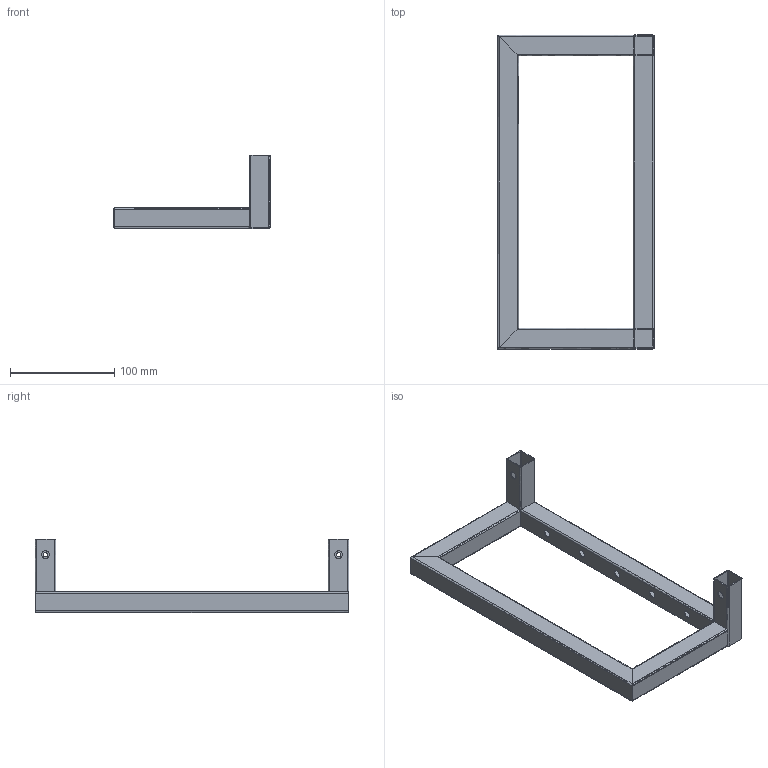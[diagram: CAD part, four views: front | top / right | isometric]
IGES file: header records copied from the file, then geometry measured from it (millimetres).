
Global section: file name: 0393-13-25; native system: VariCAD 2020-1.02; preprocessor: 5.3; author: LVVS3874K00E; organization: Elphe, Inc.; date: 20250930.165527; units: millimetre
Bounding box: 150 x 301 x 70 mm (x, y, z)
Surface area: 136362.3 mm2 (no closed solid volume)
Topology: 0 solids, 0 shells, 134 faces, 718 edges, 680 vertices
Faces by surface type: revolution 76, bspline 58
